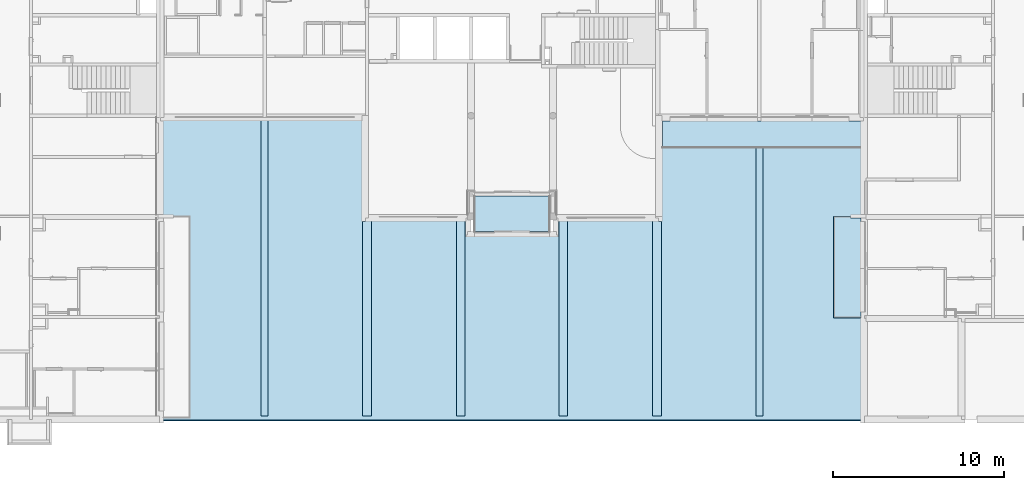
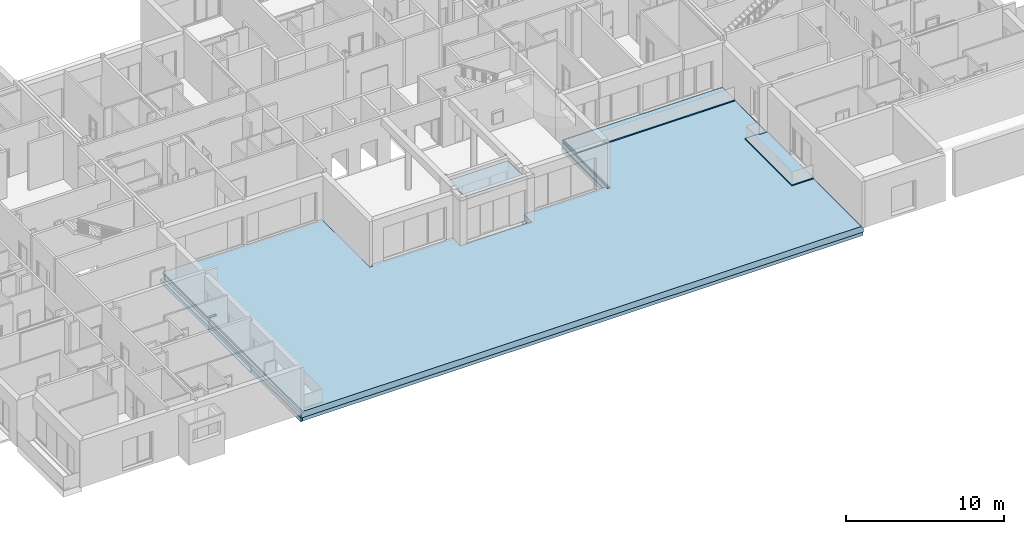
# One storey, part 2 of 46: 5 slabs.
"""IFC2X3 building model written with IfcOpenShell, lengths in millimetres."""

from ifc_helpers import new_model, entity, si_unit, converted_unit, derived_unit, money_unit, direction, frame, origin_with_axes, place, context, subcontext, project, spatial, faceted_brep, material, material_list, type_object, element, save


model = new_model("IFC2X3")

# Units and contexts
model_context = context("Model", 3, precision=0.01, world=origin_with_axes(), true_north=direction((0.34421633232, 0.938890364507)))
body_context = subcontext(model_context, "Body", "Model", "MODEL_VIEW")
ifc_project = project(units=[si_unit("LENGTHUNIT", "METRE", prefix="MILLI"), si_unit("AREAUNIT", "SQUARE_METRE"), si_unit("VOLUMEUNIT", "CUBIC_METRE"), converted_unit("PLANEANGLEUNIT", "DEGREE", entity("IfcPlaneAngleMeasure", 0.0174532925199), si_unit("PLANEANGLEUNIT", "RADIAN"), dimensions=[0, 0, 0, 0, 0, 0, 0]), si_unit("SOLIDANGLEUNIT", "STERADIAN"), money_unit("USD"), converted_unit("TIMEUNIT", "Year", entity("IfcTimeMeasure", 31556926.0), si_unit("TIMEUNIT", "SECOND"), dimensions=[0, 0, 1, 0, 0, 0, 0]), si_unit("MASSUNIT", "GRAM", prefix="KILO"), si_unit("THERMODYNAMICTEMPERATUREUNIT", "DEGREE_CELSIUS"), si_unit("LUMINOUSINTENSITYUNIT", "LUMEN"), si_unit("ENERGYUNIT", "JOULE", prefix="MEGA"), derived_unit("THERMALCONDUCTANCEUNIT", [(si_unit("POWERUNIT", "WATT"), 1), (si_unit("LENGTHUNIT", "METRE"), -1), (si_unit("THERMODYNAMICTEMPERATUREUNIT", "KELVIN"), -1)]), derived_unit("SPECIFICHEATCAPACITYUNIT", [(si_unit("ENERGYUNIT", "JOULE"), 1), (si_unit("MASSUNIT", "GRAM", prefix="KILO"), -1), (si_unit("THERMODYNAMICTEMPERATUREUNIT", "KELVIN"), -1)]), derived_unit("MASSDENSITYUNIT", [(si_unit("MASSUNIT", "GRAM", prefix="KILO"), 1), (si_unit("VOLUMEUNIT", "CUBIC_METRE"), -1)])], contexts=[model_context])

# Site, building, storey
site_placement = place(None, origin_with_axes())
site = spatial("IfcSite", under=ifc_project, at=site_placement, Name="USTRONIE MORSKIE", CompositionType="ELEMENT")
building_placement = place(site_placement, origin_with_axes())
building = spatial("IfcBuilding", under=site, at=building_placement, Name="Budynek", CompositionType="ELEMENT")
storey_placement = place(building_placement, origin_with_axes())
storey = spatial("IfcBuildingStorey", under=building, at=storey_placement, Name="PARTER", CompositionType="ELEMENT", Elevation=0.0)

# Slabs
ifc_material_1 = material(Name="Bloczki betonowe")
ifc_material_2 = material(Name="Piasek")
ifc_material_3 = material(Name="Membrana hydroizolacyjna")
ifc_material_4 = material(Name="Polistyren ekstrudowany")
ifc_material_5 = material(Name="Beton")
ifc_material_list_1 = material_list([ifc_material_1, ifc_material_2, ifc_material_3, ifc_material_4, ifc_material_3, ifc_material_5])
slab_type_1 = type_object("IfcSlabType", Name="611-DS Wykonczenie teren komunikacja  480", PredefinedType="FLOOR")
slab_1_placement = place(storey_placement, frame((367217.920919, 709001.199036, -100.0), z_axis=(0.0, 0.0, 1.0), x_axis=(1.0, 0.0, 0.0)))
element("IfcSlab", 1, at=slab_1_placement, inside=storey, type_object=slab_type_1, material=ifc_material_list_1, Name="P3.2", PredefinedType="FLOOR", context=body_context, shape_type="Brep", body=[
    faceted_brep([(150.0, 11900.0, -60.0), (150.0, 11900.0, 0.0), (750.0, 11900.0, 0.0), (750.0, 11900.0, -60.0), (150.0, 0.0, 0.0), (150.0, 0.0, -60.0), (41049.9997627, 0.0, 0.0), (41050.0138821, 11900.0, 0.0), (40449.9687211, 11900.0, 0.0), (40449.9687211, 12100.0, 0.0), (41050.0141194, 12100.0, 0.0), (41050.0208824, 17800.0004057, 0.0), (29400.0, 17800.0, 0.0), (29400.0, 11689.9999903, 0.0), (29200.0, 11689.9999903, 0.0), (29200.0, 11899.9935972, 0.0), (23200.0000014, 11900.0, 0.0), (23200.0000004, 11100.0, 0.0), (23200.0, 10900.0, 0.0), (23000.0, 10900.0, 0.0), (18200.0, 10900.0, 0.0), (18000.0, 10900.0, 0.0), (17999.9999994, 11100.0, 0.0), (17999.9999978, 11899.9934371, 0.0), (12000.0, 11899.9934371, 0.0), (12000.0, 11690.0, 0.0), (11800.0, 11690.0, 0.0), (11800.0, 17800.0, 0.0), (150.0, 17799.9999054, 0.0), (150.0, 12100.0, 0.0), (750.0, 12100.0, 0.0), (750.0, 12100.0, -60.0), (150.0, 12100.0, -60.0), (150.0, 17799.9999054, -60.0), (11800.0, 17800.0, -60.0), (11800.0, 11690.0, -60.0), (12000.0, 11690.0, -60.0), (12000.0, 11899.9934371, -60.0), (17999.9999978, 11899.9934371, -60.0), (17999.9999994, 11100.0, -60.0), (18000.0, 10900.0, -60.0), (18200.0, 10900.0, -60.0), (23000.0, 10900.0, -60.0), (23200.0, 10900.0, -60.0), (23200.0000004, 11100.0, -60.0), (23200.0000015, 11900.0, -60.0), (29200.0, 11899.9935972, -60.0), (29200.0, 11689.9999903, -60.0), (29400.0, 11689.9999903, -60.0), (29400.0, 17800.0, -60.0), (41050.0208824, 17800.0004057, -60.0), (41050.0141194, 12100.0, -60.0), (40449.9687211, 12100.0, -60.0), (40449.9687211, 11900.0, -60.0), (41050.0138821, 11900.0, -60.0), (41049.9997627, 0.0, -60.0)], [[[0, 1, 2, 3]], [[4, 1, 0, 5]], [[1, 4, 6, 7, 8, 9, 10, 11, 12, 13, 14, 15, 16, 17, 18, 19, 20, 21, 22, 23, 24, 25, 26, 27, 28, 29, 30, 2]], [[30, 31, 3, 2]], [[5, 0, 3, 31, 32, 33, 34, 35, 36, 37, 38, 39, 40, 41, 42, 43, 44, 45, 46, 47, 48, 49, 50, 51, 52, 53, 54, 55]], [[4, 5, 55, 6]], [[6, 55, 54, 7]], [[54, 53, 8, 7]], [[53, 52, 9, 8]], [[9, 52, 51, 10]], [[50, 11, 10, 51]], [[11, 50, 49, 12]], [[12, 49, 48, 13]], [[13, 48, 47, 14]], [[15, 14, 47, 46]], [[46, 45, 16, 15]], [[45, 44, 17, 16]], [[43, 18, 17, 44]], [[18, 43, 42, 19]], [[42, 41, 20, 19]], [[40, 21, 20, 41]], [[39, 22, 21, 40]], [[38, 23, 22, 39]], [[23, 38, 37, 24]], [[37, 36, 25, 24]], [[36, 35, 26, 25]], [[26, 35, 34, 27]], [[34, 33, 28, 27]], [[32, 29, 28, 33]], [[30, 29, 32, 31]]]),
    faceted_brep([(150.0, 11900.0, -125.0), (150.0, 11900.0, -60.0), (750.0, 11900.0, -60.0), (750.0, 11900.0, -125.0), (150.0, 0.0, -60.0), (150.0, 0.0, -125.0), (41049.9997627, 0.0, -60.0), (41050.0138821, 11900.0, -60.0), (40449.9687211, 11900.0, -60.0), (40449.9687211, 12100.0, -60.0), (41050.0141194, 12100.0, -60.0), (41050.0208824, 17800.0004057, -60.0), (29400.0, 17800.0, -60.0), (29400.0, 11689.9999903, -60.0), (29200.0, 11689.9999903, -60.0), (29200.0, 11899.9935972, -60.0), (23200.0000015, 11900.0, -60.0), (23200.0000004, 11100.0, -60.0), (23200.0, 10900.0, -60.0), (23000.0, 10900.0, -60.0), (18200.0, 10900.0, -60.0), (18000.0, 10900.0, -60.0), (17999.9999994, 11100.0, -60.0), (17999.9999978, 11899.9934371, -60.0), (12000.0, 11899.9934371, -60.0), (12000.0, 11690.0, -60.0), (11800.0, 11690.0, -60.0), (11800.0, 17800.0, -60.0), (150.0, 17799.9999054, -60.0), (150.0, 12100.0, -60.0), (750.0, 12100.0, -60.0), (750.0, 12100.0, -125.0), (150.0, 12100.0, -125.0), (150.0, 17799.9999054, -125.0), (11800.0, 17800.0, -125.0), (11800.0, 11690.0, -125.0), (12000.0, 11690.0, -125.0), (12000.0, 11899.9934371, -125.0), (17999.9999978, 11899.9934371, -125.0), (17999.9999993, 11100.0, -125.0), (18000.0, 10900.0, -125.0), (18200.0, 10900.0, -125.0), (23000.0, 10900.0, -125.0), (23200.0, 10900.0, -125.0), (23200.0000004, 11100.0, -125.0), (23200.0000015, 11900.0, -125.0), (29200.0, 11899.9935972, -125.0), (29200.0, 11689.9999903, -125.0), (29400.0, 11689.9999903, -125.0), (29400.0, 17800.0, -125.0), (41050.0208824, 17800.0004057, -125.0), (41050.0141194, 12100.0, -125.0), (40449.9687211, 12100.0, -125.0), (40449.9687211, 11900.0, -125.0), (41050.0138821, 11900.0, -125.0), (41049.9997627, 0.0, -125.0)], [[[0, 1, 2, 3]], [[4, 1, 0, 5]], [[1, 4, 6, 7, 8, 9, 10, 11, 12, 13, 14, 15, 16, 17, 18, 19, 20, 21, 22, 23, 24, 25, 26, 27, 28, 29, 30, 2]], [[30, 31, 3, 2]], [[5, 0, 3, 31, 32, 33, 34, 35, 36, 37, 38, 39, 40, 41, 42, 43, 44, 45, 46, 47, 48, 49, 50, 51, 52, 53, 54, 55]], [[4, 5, 55, 6]], [[6, 55, 54, 7]], [[54, 53, 8, 7]], [[53, 52, 9, 8]], [[9, 52, 51, 10]], [[50, 11, 10, 51]], [[11, 50, 49, 12]], [[12, 49, 48, 13]], [[13, 48, 47, 14]], [[15, 14, 47, 46]], [[46, 45, 16, 15]], [[45, 44, 17, 16]], [[43, 18, 17, 44]], [[18, 43, 42, 19]], [[42, 41, 20, 19]], [[40, 21, 20, 41]], [[39, 22, 21, 40]], [[38, 23, 22, 39]], [[23, 38, 37, 24]], [[37, 36, 25, 24]], [[36, 35, 26, 25]], [[26, 35, 34, 27]], [[34, 33, 28, 27]], [[32, 29, 28, 33]], [[30, 29, 32, 31]]]),
    faceted_brep([(750.0, 11900.0, -130.0), (150.0, 11900.0, -130.0), (150.0, 11900.0, -125.0), (750.0, 11900.0, -125.0), (41049.9997627, 0.0, -130.0), (150.0, 0.0, -130.0), (750.0, 12100.0, -130.0), (150.0, 12100.0, -130.0), (150.0, 17799.9999054, -130.0), (11800.0, 17800.0, -130.0), (11800.0, 11690.0, -130.0), (12000.0, 11690.0, -130.0), (12000.0, 11899.9934371, -130.0), (17999.9999978, 11899.9934371, -130.0), (17999.9999993, 11100.0, -130.0), (18000.0, 10900.0, -130.0), (18200.0, 10900.0, -130.0), (23000.0, 10900.0, -130.0), (23200.0, 10900.0, -130.0), (23200.0000004, 11100.0, -130.0), (23200.0000015, 11900.0, -130.0), (29200.0, 11899.9935972, -130.0), (29200.0, 11689.9999903, -130.0), (29400.0, 11689.9999903, -130.0), (29400.0, 17800.0, -130.0), (41050.0208824, 17800.0004057, -130.0), (41050.0141194, 12100.0, -130.0), (40449.9687211, 12100.0, -130.0), (40449.9687211, 11900.0, -130.0), (41050.0138821, 11900.0, -130.0), (150.0, 0.0, -125.0), (41049.9997627, 0.0, -125.0), (41050.0138821, 11900.0, -125.0), (40449.9687211, 11900.0, -125.0), (40449.9687211, 12100.0, -125.0), (41050.0141194, 12100.0, -125.0), (41050.0208824, 17800.0004057, -125.0), (29400.0, 17800.0, -125.0), (29400.0, 11689.9999903, -125.0), (29200.0, 11689.9999903, -125.0), (29200.0, 11899.9935972, -125.0), (23200.0000015, 11900.0, -125.0), (23200.0000004, 11100.0, -125.0), (23200.0, 10900.0, -125.0), (23000.0, 10900.0, -125.0), (18200.0, 10900.0, -125.0), (18000.0, 10900.0, -125.0), (17999.9999993, 11100.0, -125.0), (17999.9999978, 11899.9934371, -125.0), (12000.0, 11899.9934371, -125.0), (12000.0, 11690.0, -125.0), (11800.0, 11690.0, -125.0), (11800.0, 17800.0, -125.0), (150.0, 17799.9999054, -125.0), (150.0, 12100.0, -125.0), (750.0, 12100.0, -125.0)], [[[0, 1, 2, 3]], [[4, 5, 1, 0, 6, 7, 8, 9, 10, 11, 12, 13, 14, 15, 16, 17, 18, 19, 20, 21, 22, 23, 24, 25, 26, 27, 28, 29]], [[5, 30, 2, 1]], [[3, 2, 30, 31, 32, 33, 34, 35, 36, 37, 38, 39, 40, 41, 42, 43, 44, 45, 46, 47, 48, 49, 50, 51, 52, 53, 54, 55]], [[3, 55, 6, 0]], [[31, 30, 5, 4]], [[6, 55, 54, 7]], [[8, 7, 54, 53]], [[52, 9, 8, 53]], [[52, 51, 10, 9]], [[50, 11, 10, 51]], [[49, 12, 11, 50]], [[49, 48, 13, 12]], [[14, 13, 48, 47]], [[15, 14, 47, 46]], [[16, 15, 46, 45]], [[44, 17, 16, 45]], [[44, 43, 18, 17]], [[19, 18, 43, 42]], [[41, 20, 19, 42]], [[40, 21, 20, 41]], [[21, 40, 39, 22]], [[39, 38, 23, 22]], [[38, 37, 24, 23]], [[37, 36, 25, 24]], [[26, 25, 36, 35]], [[35, 34, 27, 26]], [[33, 28, 27, 34]], [[32, 29, 28, 33]], [[32, 31, 4, 29]]]),
    faceted_brep([(17999.999998, 11800.0000051, -280.0), (17999.999998, 11800.0, -129.999693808), (17999.9999993, 11100.0, -130.0), (17999.9999993, 11100.0, -280.0), (11899.9999933, 11800.0, -129.999693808), (11899.999996, 11800.0000027, -280.0), (29300.0, 11800.0, -129.999693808), (23200.0000014, 11800.0, -129.999693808), (23200.0000004, 11100.0, -130.0), (23200.0, 10900.0, -130.0), (23000.0, 10900.0, -130.0), (18200.0, 10900.0, -130.0), (18000.0, 10900.0, -130.0), (11900.0, 17800.0, -129.999693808), (200.0, 17800.0, -129.999958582), (200.0, 11750.0, -129.999958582), (0.0, 11750.0, -129.999958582), (0.0, 0.0, -130.0), (41200.0, 0.0, -130.0), (41200.0, 17800.0, -130.0), (41000.0, 17800.0, -129.999693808), (41000.0, 17700.0, -129.999693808), (35300.0, 17700.0, -129.999693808), (35300.0, 17650.0, -129.999693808), (34900.0, 17650.0, -129.999693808), (34900.0, 17700.0, -129.999693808), (29350.0, 17700.0, -129.999693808), (29350.0, 11899.9934371, -130.0), (29300.0, 11899.9934905, -129.999693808), (18000.0, 10900.0, -280.0), (23200.0000014, 11800.0000051, -280.0), (29299.9999973, 11800.0000027, -280.0), (29299.9999949, 11899.9934371, -280.0), (29350.0, 11899.9934371, -280.0), (29350.0, 17700.0000051, -280.0), (34899.9999987, 17700.0000027, -280.0), (34899.9999987, 17650.0, -280.0), (35299.9999973, 17650.0, -280.0), (35299.9999973, 17700.0000027, -280.0), (41000.0, 17700.0000027, -280.0), (41000.0, 17800.0, -280.0), (41200.0, 17800.0, -280.0), (41200.0, 0.0, -280.0), (0.0, 0.0, -280.0), (0.0, 11750.0, -280.0), (200.0, 11750.0, -280.0), (200.0, 17800.0, -280.0), (11900.0000009, 17800.0, -280.0), (18200.0, 10900.0, -280.0), (23000.0, 10900.0, -280.0), (23200.0, 10900.0, -280.0), (23200.0000005, 11100.0, -280.0)], [[[0, 1, 2, 3]], [[4, 1, 0, 5]], [[6, 7, 8, 9, 10, 11, 12, 2, 1, 4, 13, 14, 15, 16, 17, 18, 19, 20, 21, 22, 23, 24, 25, 26, 27, 28]], [[29, 3, 2, 12]], [[30, 31, 32, 33, 34, 35, 36, 37, 38, 39, 40, 41, 42, 43, 44, 45, 46, 47, 5, 0, 3, 29, 48, 49, 50, 51]], [[4, 5, 47, 13]], [[7, 6, 31, 30]], [[7, 30, 51, 8]], [[9, 8, 51, 50]], [[49, 10, 9, 50]], [[49, 48, 11, 10]], [[29, 12, 11, 48]], [[13, 47, 46, 14]], [[45, 15, 14, 46]], [[44, 16, 15, 45]], [[17, 16, 44, 43]], [[17, 43, 42, 18]], [[18, 42, 41, 19]], [[40, 20, 19, 41]], [[21, 20, 40, 39]], [[22, 21, 39, 38]], [[22, 38, 37, 23]], [[24, 23, 37, 36]], [[35, 25, 24, 36]], [[26, 25, 35, 34]], [[26, 34, 33, 27]], [[32, 28, 27, 33]], [[31, 6, 28, 32]]]),
    faceted_brep([(17999.999998, 11800.000005, -285.0), (17999.999998, 11800.0000051, -280.0), (17999.9999993, 11100.0, -280.0), (17999.9999993, 11100.0, -285.0), (11899.999996, 11800.0000027, -280.0), (11899.9999961, 11800.0000028, -285.0), (29299.9999973, 11800.0000027, -280.0), (23200.0000014, 11800.0000051, -280.0), (23200.0000005, 11100.0, -280.0), (23200.0, 10900.0, -280.0), (23000.0, 10900.0, -280.0), (18200.0, 10900.0, -280.0), (18000.0, 10900.0, -280.0), (11900.0000009, 17800.0, -280.0), (200.0, 17800.0, -280.0), (200.0, 11750.0, -279.999999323), (200.0, 6350.0, -279.999999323), (0.0, 6350.0, -279.999999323), (0.0, 0.0, -280.0), (41200.0, 0.0, -280.0), (41200.0, 17800.0, -280.0), (41000.0, 17800.0, -280.0), (41000.0, 17700.0000027, -280.0), (35299.9999973, 17700.0000027, -280.0), (35299.9999973, 17650.0, -280.0), (34899.9999987, 17650.0, -280.0), (34899.9999987, 17700.0000027, -280.0), (29350.0, 17700.0000051, -280.0), (29350.0, 11899.9934371, -280.0), (29299.9999949, 11899.9934371, -280.0), (18000.0, 10900.0, -285.0), (23200.0000014, 11800.000005, -285.0), (29299.9999972, 11800.0000028, -285.0), (29299.999995, 11899.9934371, -285.0), (29350.0, 11899.9934371, -285.0), (29350.0, 17700.000005, -285.0), (34899.9999986, 17700.0000028, -285.0), (34899.9999986, 17650.0, -285.0), (35299.9999972, 17650.0, -285.0), (35299.9999972, 17700.0000028, -285.0), (41000.0, 17700.0000028, -285.0), (41000.0, 17800.0, -285.0), (41200.0, 17800.0, -285.0), (41200.0, 0.0, -285.0), (0.0, 0.0, -285.0), (0.0, 6350.0, -285.0), (200.0, 6350.0, -285.0), (200.0, 11750.0, -285.0), (200.0, 17800.0, -285.0), (11900.0000009, 17800.0, -285.0), (18200.0, 10900.0, -285.0), (23000.0, 10900.0, -285.0), (23200.0, 10900.0, -285.0), (23200.0000005, 11100.0, -285.0)], [[[0, 1, 2, 3]], [[4, 1, 0, 5]], [[6, 7, 8, 9, 10, 11, 12, 2, 1, 4, 13, 14, 15, 16, 17, 18, 19, 20, 21, 22, 23, 24, 25, 26, 27, 28, 29]], [[30, 3, 2, 12]], [[31, 32, 33, 34, 35, 36, 37, 38, 39, 40, 41, 42, 43, 44, 45, 46, 47, 48, 49, 5, 0, 3, 30, 50, 51, 52, 53]], [[4, 5, 49, 13]], [[7, 6, 32, 31]], [[7, 31, 53, 8]], [[9, 8, 53, 52]], [[51, 10, 9, 52]], [[51, 50, 11, 10]], [[30, 12, 11, 50]], [[13, 49, 48, 14]], [[47, 46, 16, 15, 14, 48]], [[17, 16, 46, 45]], [[17, 45, 44, 18]], [[18, 44, 43, 19]], [[19, 43, 42, 20]], [[41, 21, 20, 42]], [[22, 21, 41, 40]], [[23, 22, 40, 39]], [[23, 39, 38, 24]], [[25, 24, 38, 37]], [[36, 26, 25, 37]], [[27, 26, 36, 35]], [[27, 35, 34, 28]], [[33, 29, 28, 34]], [[32, 6, 29, 33]]]),
    faceted_brep([(17999.9999981, 11800.0000039, -480.0), (17999.9999979, 11800.0000045, -379.999698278), (17999.999998, 11800.000005, -285.0), (17999.9999993, 11100.0, -285.0), (17999.9999993, 11100.0, -480.0), (11899.9999972, 11800.0000039, -480.0), (11899.9999978, 11800.0000045, -379.999698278), (11899.9999961, 11800.0000028, -285.0), (29299.9999972, 11800.0000028, -285.0), (23200.0000014, 11800.000005, -285.0), (23200.0000005, 11100.0, -285.0), (23200.0, 10900.0, -285.0), (23000.0, 10900.0, -285.0), (18200.0, 10900.0, -285.0), (18000.0, 10900.0, -285.0), (11900.0000009, 17800.0, -285.0), (200.0, 17800.0, -285.0), (200.0, 11750.0, -285.0), (200.0, 6350.0, -285.0), (0.0, 6350.0, -285.0), (0.0, 0.0, -285.0), (41200.0, 0.0, -285.0), (41200.0, 17800.0, -285.0), (41000.0, 17800.0, -285.0), (41000.0, 17700.0000028, -285.0), (35299.9999972, 17700.0000028, -285.0), (35299.9999972, 17650.0, -285.0), (34899.9999986, 17650.0, -285.0), (34899.9999986, 17700.0000028, -285.0), (29350.0, 17700.000005, -285.0), (29350.0, 11899.9934371, -285.0), (29299.999995, 11899.9934371, -285.0), (18000.0, 10900.0, -480.0), (23200.0000013, 11800.0000039, -480.0), (29299.9999961, 11800.0000039, -480.0), (29299.9999961, 11899.9934371, -480.0), (29350.0, 11899.9934371, -480.0), (29350.0, 17700.0000039, -480.0), (34899.9999981, 17700.0000039, -480.0), (34899.9999981, 17650.0, -480.0), (35299.9999961, 17650.0, -480.0), (35299.9999961, 17700.0000039, -480.0), (41000.0, 17700.0000039, -480.0), (41000.0, 17800.0, -480.0), (41200.0, 17800.0, -480.0), (41200.0, 0.0, -480.0), (0.0, 0.0, -480.0), (0.0, 6350.0, -480.0), (200.0, 6350.0, -480.0), (200.0, 11750.0, -480.0), (200.0, 17800.0, -480.0), (11899.9999984, 17800.0, -480.0), (18200.0, 10900.0, -480.0), (23000.0, 10900.0, -480.0), (23200.0, 10900.0, -480.0), (23200.0000005, 11100.0, -480.0), (17350.0, 300.019784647, -480.0), (17850.0, 300.019784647, -480.0), (17850.0, 11750.0, -480.0), (17350.0, 11750.0, -480.0), (23350.0, 300.019784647, -480.0), (23850.0, 300.019784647, -480.0), (23850.0, 11750.0, -480.0), (23350.0, 11750.0, -480.0), (11850.0, 300.019784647, -480.0), (12350.0, 300.019784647, -480.0), (12350.0, 11750.0, -480.0), (11850.0, 11750.0, -480.0), (28850.0, 300.0, -480.0), (29350.0, 300.0, -480.0), (29350.0, 11750.0, -480.0), (28850.0, 11750.0, -480.0), (11899.9999978, 17800.0, -379.999698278), (29299.9999955, 11800.0000045, -379.999698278), (23200.0000005, 11800.0000045, -379.999698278), (41000.0, 17700.0000045, -379.999698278), (35299.9999955, 17700.0000045, -379.999698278), (35299.9999955, 17650.0, -379.999698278), (34899.9999978, 17650.0, -379.999698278), (34899.9999978, 17700.0000045, -379.999698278), (29350.0, 17700.0000045, -379.999698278), (29299.9999955, 11899.9934371, -379.999698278), (17350.0, 300.019784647, -429.999693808), (17850.0, 300.019784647, -429.999693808), (17850.0, 11750.0, -429.999693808), (17350.0, 11750.0, -429.999693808), (23350.0, 300.019784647, -429.999693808), (23850.0, 300.019784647, -429.999693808), (23850.0, 11750.0, -429.999693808), (23350.0, 11750.0, -429.999693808), (11850.0, 300.019784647, -429.999693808), (12350.0, 300.019784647, -429.999693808), (12350.0, 11750.0, -429.999693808), (11850.0, 11750.0, -429.999693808), (28850.0, 300.0, -429.999693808), (29350.0, 300.0, -429.999693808), (29350.0, 11750.0, -429.999693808), (28850.0, 11750.0, -429.999693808)], [[[0, 1, 2, 3, 4]], [[1, 0, 5, 6]], [[7, 2, 1, 6]], [[8, 9, 10, 11, 12, 13, 14, 3, 2, 7, 15, 16, 17, 18, 19, 20, 21, 22, 23, 24, 25, 26, 27, 28, 29, 30, 31]], [[32, 4, 3, 14]], [[33, 34, 35, 36, 37, 38, 39, 40, 41, 42, 43, 44, 45, 46, 47, 48, 49, 50, 51, 5, 0, 4, 32, 52, 53, 54, 55], [56, 57, 58, 59], [60, 61, 62, 63], [64, 65, 66, 67], [68, 69, 70, 71]], [[6, 5, 51, 72]], [[7, 6, 72, 15]], [[9, 8, 73, 74]], [[74, 33, 55, 10, 9]], [[11, 10, 55, 54]], [[53, 12, 11, 54]], [[53, 52, 13, 12]], [[32, 14, 13, 52]], [[72, 51, 50, 16, 15]], [[49, 48, 18, 17, 16, 50]], [[19, 18, 48, 47]], [[19, 47, 46, 20]], [[21, 20, 46, 45]], [[22, 21, 45, 44]], [[43, 23, 22, 44]], [[24, 23, 43, 42, 75]], [[25, 24, 75, 76]], [[25, 76, 77, 26]], [[27, 26, 77, 40, 39, 78]], [[79, 28, 27, 78]], [[29, 28, 79, 80]], [[80, 37, 36, 30, 29]], [[35, 81, 31, 30, 36]], [[73, 8, 31, 81]], [[73, 34, 33, 74]], [[34, 73, 81, 35]], [[79, 38, 37, 80]], [[38, 79, 78, 39]], [[76, 41, 40, 77]], [[42, 41, 76, 75]], [[57, 56, 82, 83]], [[58, 57, 83, 84]], [[59, 58, 84, 85]], [[56, 59, 85, 82]], [[61, 60, 86, 87]], [[62, 61, 87, 88]], [[63, 62, 88, 89]], [[60, 63, 89, 86]], [[65, 64, 90, 91]], [[66, 65, 91, 92]], [[67, 66, 92, 93]], [[64, 67, 93, 90]], [[69, 68, 94, 95]], [[70, 69, 95, 96]], [[71, 70, 96, 97]], [[68, 71, 97, 94]], [[82, 85, 84, 83]], [[86, 89, 88, 87]], [[92, 91, 90, 93]], [[96, 95, 94, 97]]]),
])
ifc_material_6 = material(Name="Kostka brukowa")
slab_type_2 = type_object("IfcSlabType", Name="Kostka brukowa 80", PredefinedType="FLOOR")
slab_2_placement = place(storey_placement, frame((408267.920919, 715051.199036, 0.0), z_axis=(0.0, 0.0, 1.0), x_axis=(1.0, 0.0, 0.0)))
element("IfcSlab", 2, at=slab_2_placement, inside=storey, type_object=slab_type_2, material=ifc_material_6, Name="P3", PredefinedType="FLOOR", context=body_context, shape_type="Brep", body=[
    faceted_brep([(0.0, 0.0, -80.0), (0.0, 5850.0, -80.0), (0.0, 5850.0, 0.0), (0.0, 0.0, 0.0), (-600.031278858, 5950.0, -80.0), (-600.031278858, 5850.0, -80.0), (-1600.0, 0.0, -80.0), (-1600.0, 5950.0, -80.0), (-600.031278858, 5850.0, 0.0), (-600.031278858, 5950.0, 0.0), (-1600.0, 5950.0, 0.0), (-1600.0, 0.0, 0.0)], [[[0, 1, 2, 3]], [[4, 5, 1, 0, 6, 7]], [[5, 8, 2, 1]], [[2, 8, 9, 10, 11, 3]], [[3, 11, 6, 0]], [[5, 4, 9, 8]], [[11, 10, 7, 6]], [[10, 9, 4, 7]]]),
])
slab_3_placement = place(storey_placement, frame((396637.96229, 726601.199036, 0.0), z_axis=(0.0, 0.0, 1.0), x_axis=(1.0, 0.0, 0.0)))
element("IfcSlab", 3, at=slab_3_placement, inside=storey, type_object=slab_type_2, material=ifc_material_6, Name="P3", PredefinedType="FLOOR", context=body_context, shape_type="Brep", body=[
    faceted_brep([(-0.0374374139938, -1600.00067759, 0.0), (0.0, 0.0, 0.0), (0.0, 0.0, -80.0), (-0.0374374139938, -1600.00067759, -80.0), (11629.9771783, -1600.00067759, 0.0), (11629.9845996, 0.0, 0.0), (11629.9845996, 0.0, -80.0), (11629.9771783, -1600.00067759, -80.0)], [[[0, 1, 2, 3]], [[4, 5, 1, 0]], [[1, 5, 6, 2]], [[7, 3, 2, 6]], [[4, 0, 3, 7]], [[5, 4, 7, 6]]]),
])
ifc_material_7 = material(Name="Laminat")
slab_type_3 = type_object("IfcSlabType", Name="Laminat 25", PredefinedType="FLOOR")
slab_4_placement = place(storey_placement, frame((385637.920919, 720101.199036, 3400.0), z_axis=(0.0, 0.0, 1.0), x_axis=(1.0, 0.0, 0.0)))
element("IfcSlab", 4, at=slab_4_placement, inside=storey, type_object=slab_type_3, material=ifc_material_7, Name="P6", PredefinedType="FLOOR", context=body_context, shape_type="Brep", body=[
    faceted_brep([(4360.0, 0.0, -25.0), (4360.0, 0.0, 0.0), (0.0, 0.0, 0.0), (0.0, 0.0, -25.0), (4360.0, 2080.0, -25.0), (4360.0, 2080.0, 0.0), (0.0, 2080.0, 0.0), (0.0, 2080.0, -25.0)], [[[0, 1, 2, 3]], [[4, 5, 1, 0]], [[1, 5, 6, 2]], [[3, 2, 6, 7]], [[7, 4, 0, 3]], [[7, 6, 5, 4]]]),
])
ifc_material_8 = material(Name="Beton konstrukcyjny 01")
ifc_material_9 = material(Name="Termoizolacja WEŁNA SKALNA")
ifc_material_list_2 = material_list([ifc_material_8, ifc_material_9])
slab_type_4 = type_object("IfcSlabType", Name="501-P3 STROP PARTER 350", PredefinedType="FLOOR")
slab_5_placement = place(storey_placement, frame((379217.920919, 726801.198942, -580.0), z_axis=(0.0, 0.0, 1.0), x_axis=(1.0, 0.0, 0.0)))
element("IfcSlab", 5, at=slab_5_placement, inside=storey, type_object=slab_type_4, material=ifc_material_list_2, Name="P3.1", PredefinedType="FLOOR", context=body_context, shape_type="Brep", body=[
    faceted_brep([(6199.95803773, -6699.74816549, -300.0), (6199.99473628, -5999.99990333, -300.0), (6199.99473628, -5999.99990154, 0.0), (6199.95803773, -6699.74816549, 0.0), (10999.9632882, -6699.99990349, -300.0), (11000.0, -5999.99990333, -300.0), (17299.9999979, -5999.99990333, -300.0), (17299.9999979, -99.999903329, -300.0), (22899.999999, -99.999903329, -300.0), (22899.999999, -149.999905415, -300.0), (22900.0000035, -17499.9999054, -300.0), (23299.9999977, -17499.9999054, -300.0), (23299.9999979, -149.999905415, -300.0), (23299.9999979, -99.999903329, -300.0), (29000.0, -99.999903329, -300.0), (29000.0, 9.4584947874e-05, -300.0), (29200.0, 9.4584947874e-05, -300.0), (29200.0, -17749.9801163, -300.0), (-11900.0, -17749.980119, -300.0), (-11900.0, -17799.9999054, -300.0), (-12000.0, -17799.9999054, -300.0), (-12000.0, -11449.9999054, -300.000000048), (-11800.0, -11449.9999054, -300.000000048), (-11800.0, -6049.99990542, -300.000000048), (-12000.0, -6049.99990542, -300.000000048), (-12000.0, 0.0, -300.0), (-6099.99999652, 0.0, -300.0), (-6099.99999652, -17499.9801208, -300.0), (-5700.00000232, -17499.9801208, -300.0), (-5700.00000397, 0.0, -300.0), (-99.999999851, 0.0, -300.0), (-100.000004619, -5999.99990333, -300.0), (5350.0, -6049.99990542, -300.0), (5350.0, -17499.9801208, -300.0), (5850.0, -17499.9801208, -300.0), (5850.0, -6049.99990542, -300.0), (11350.0, -6049.99990542, -300.0), (11350.0, -17499.9801208, -300.0), (11850.0, -17499.9801208, -300.0), (11850.0, -6049.99990542, -300.0), (-150.0, -6049.99990542, -300.0), (-150.0, -17499.9801208, -300.0), (350.0, -17499.9801208, -300.0), (350.0, -6049.99990542, -300.0), (16850.0, -6049.99990542, -300.0), (16850.0, -17499.9999054, -300.0), (17350.0, -17499.9999054, -300.0), (17350.0, -6049.99990542, -300.0), (-100.000002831, -5999.99990154, 0.0), (17299.9999961, -99.9999015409, 0.0), (17299.9999961, -5999.99990154, 0.0), (11000.0, -5999.99990154, 0.0), (10999.9632882, -6699.99990349, 0.0), (-100.000001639, 0.0, 0.0), (-5700.0, 0.0, 0.000306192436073), (-5700.0, -17499.9801208, 0.000306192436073), (-6100.0, -17499.9801208, 0.000306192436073), (-6100.0, 0.0, 0.000306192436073), (-12000.0, 0.0, 0.0), (-12000.0, -6049.99990542, 0.0), (-11800.0, -6049.99990542, 0.0), (-11800.0, -11449.9999054, 0.0), (-12000.0, -11449.9999054, 0.0), (-12000.0, -17799.9999054, 0.0), (-11900.0, -17799.9999054, 0.0), (-11900.0, -17749.980119, 0.0), (29200.0, -17749.9801208, 0.0), (29200.0, 9.4584947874e-05, 0.0), (29000.0, 9.4584947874e-05, 0.0), (29000.0, -99.9999015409, 0.0), (23299.9999961, -99.9999015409, 0.000204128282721), (23299.9999961, -149.999905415, 0.000306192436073), (23300.0, -17499.9999054, 0.000306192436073), (22900.0, -17499.9999054, 0.000306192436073), (22899.9999981, -149.999905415, 0.000306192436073), (22899.9999981, -99.9999015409, 0.000204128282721), (5850.0, -17499.9801208, 0.0), (5350.0, -17499.9801208, 0.0), (5350.0, -6049.99990542, 0.0), (5850.0, -6049.99990542, 0.0), (11850.0, -17499.9801208, 0.0), (11350.0, -17499.9801208, 0.0), (11350.0, -6049.99990542, 0.0), (11850.0, -6049.99990542, 0.0), (350.0, -17499.9801208, 0.0), (-150.0, -17499.9801208, 0.0), (-150.0, -6049.99990542, 0.0), (350.0, -6049.99990542, 0.0), (17350.0, -17499.9999054, 0.0), (16850.0, -17499.9999054, 0.0), (16850.0, -6049.99990542, 0.0), (17350.0, -6049.99990542, 0.0), (22899.9999987, -149.999905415, -199.999695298), (22900.0000045, -17499.9999054, -199.999695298), (23299.999997, -17499.9999054, -199.999695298), (23299.9999973, -149.999905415, -199.999695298), (-6099.99999553, 0.0, -199.999695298), (-6099.99999553, -17499.9801208, -199.999695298), (-5700.00000298, -17499.9801208, -199.999695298), (-5700.00000298, 0.0, -199.999695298)], [[[0, 1, 2, 3]], [[4, 5, 6, 7, 8, 9, 10, 11, 12, 13, 14, 15, 16, 17, 18, 19, 20, 21, 22, 23, 24, 25, 26, 27, 28, 29, 30, 31, 1, 0], [32, 33, 34, 35], [36, 37, 38, 39], [40, 41, 42, 43], [44, 45, 46, 47]], [[31, 48, 2, 1]], [[49, 50, 51, 52, 3, 2, 48, 53, 54, 55, 56, 57, 58, 59, 60, 61, 62, 63, 64, 65, 66, 67, 68, 69, 70, 71, 72, 73, 74, 75], [76, 77, 78, 79], [80, 81, 82, 83], [84, 85, 86, 87], [88, 89, 90, 91]], [[3, 52, 4, 0]], [[52, 51, 5, 4]], [[5, 51, 50, 6]], [[7, 6, 50, 49]], [[7, 49, 75, 8]], [[9, 8, 75, 74, 92]], [[10, 9, 92, 93]], [[93, 73, 72, 94, 11, 10]], [[94, 95, 12, 11]], [[71, 70, 13, 12, 95]], [[13, 70, 69, 14]], [[14, 69, 68, 15]], [[16, 15, 68, 67]], [[16, 67, 66, 17]], [[65, 18, 17, 66]], [[19, 18, 65, 64]], [[63, 20, 19, 64]], [[63, 62, 21, 20]], [[21, 62, 61, 22]], [[22, 61, 60, 23]], [[23, 60, 59, 24]], [[25, 24, 59, 58]], [[57, 96, 26, 25, 58]], [[27, 26, 96, 97]], [[97, 56, 55, 98, 28, 27]], [[98, 99, 29, 28]], [[30, 29, 99, 54, 53]], [[53, 48, 31, 30]], [[32, 78, 77, 33]], [[33, 77, 76, 34]], [[34, 76, 79, 35]], [[35, 79, 78, 32]], [[36, 82, 81, 37]], [[37, 81, 80, 38]], [[38, 80, 83, 39]], [[39, 83, 82, 36]], [[40, 86, 85, 41]], [[41, 85, 84, 42]], [[42, 84, 87, 43]], [[43, 87, 86, 40]], [[44, 90, 89, 45]], [[45, 89, 88, 46]], [[46, 88, 91, 47]], [[47, 91, 90, 44]], [[98, 55, 54, 99]], [[97, 96, 57, 56]], [[72, 71, 95, 94]], [[93, 92, 74, 73]]]),
    faceted_brep([(22850.0000015, -17499.9801213, -350.0), (17350.0, -17499.980121, -350.0), (17350.0, -6049.99990542, -350.0), (17349.9999933, -149.99989871, -350.0), (22850.0, -149.999905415, -350.0), (22850.0000015, -17499.9801211, -300.0), (17350.0, -17499.9801209, -300.0), (17350.0, -6049.99990542, -300.0), (17349.9999933, -149.99989871, -300.0), (22850.0, -149.999905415, -300.0)], [[[0, 1, 2, 3, 4]], [[5, 6, 1, 0]], [[1, 6, 7, 2]], [[7, 8, 3, 2]], [[3, 8, 9, 4]], [[0, 4, 9, 5]], [[8, 7, 6, 5, 9]]]),
    faceted_brep([(5350.0, -6049.99989871, -350.0), (5350.0, -6049.99989871, -300.0), (5350.0, -17499.9801208, -300.0), (5350.0, -17499.9801208, -350.0), (350.0, -6049.99989871, -300.0), (350.0, -6049.99989871, -350.0), (350.0, -17499.9801208, -300.0), (350.0, -17499.9801208, -350.0)], [[[0, 1, 2, 3]], [[4, 1, 0, 5]], [[1, 4, 6, 2]], [[6, 7, 3, 2]], [[5, 0, 3, 7]], [[4, 5, 7, 6]]]),
    faceted_brep([(-6149.99999851, -17499.9801208, -300.0), (-6149.99999851, 9.45848341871e-05, -300.0), (-11800.0, 0.0, -300.0), (-11800.0, -6049.99990542, -300.0), (-12000.0, -6049.99990542, -300.0), (-12000.0, -11449.9999054, -300.0), (-11800.0, -11449.9999054, -300.0), (-11800.0, -17499.9801223, -300.0), (-6149.99999851, 9.45848341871e-05, -350.0), (-6149.99999851, -17499.9801208, -350.0), (-11800.0, 0.0, -350.0), (-11800.0, -6049.99990542, -350.0), (-12000.0, -6049.99990542, -350.0), (-12000.0, -11449.9999054, -350.0), (-11800.0, -11449.9999054, -350.0), (-11800.0, -17499.9801223, -350.0)], [[[0, 1, 2, 3, 4, 5, 6, 7]], [[8, 1, 0, 9]], [[1, 8, 10, 2]], [[11, 3, 2, 10]], [[12, 4, 3, 11]], [[5, 4, 12, 13]], [[14, 6, 5, 13]], [[15, 7, 6, 14]], [[9, 0, 7, 15]], [[8, 9, 15, 14, 13, 12, 11, 10]]]),
    faceted_brep([(-5650.0, 9.45848341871e-05, -350.0), (-5650.0, 9.45848341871e-05, -300.0), (-150.0, 9.45848341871e-05, -300.0), (-150.0, 9.45848341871e-05, -350.0), (-5650.0, -17499.9801208, -300.0), (-5650.0, -17499.9801208, -350.0), (-150.0, -17499.9801208, -300.0), (-150.0, -6049.99990542, -300.0), (-150.0, -6049.99990542, -350.0), (-150.0, -17499.9801208, -350.0)], [[[0, 1, 2, 3]], [[4, 1, 0, 5]], [[1, 4, 6, 7, 2]], [[3, 2, 7, 8]], [[5, 0, 3, 8, 9]], [[4, 5, 9, 6]], [[7, 6, 9, 8]]]),
    faceted_brep([(29000.0, -149.99989871, -350.0), (29000.0, -149.99989871, -300.0), (29000.0, -5699.99990542, -300.0), (29000.0, -5699.99990542, -350.0), (23349.9999933, -149.999905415, -300.0), (23349.9999933, -149.999905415, -350.0), (23350.0, -17499.9801211, -300.0), (29000.0, -17499.9801208, -300.0), (29000.0, -5899.99990542, -300.0), (27100.0, -5899.99990542, -300.0), (27100.0, -5699.99990542, -300.0), (27100.0, -5699.99990542, -350.0), (27100.0, -5899.99990542, -350.0), (29000.0, -5899.99990542, -350.0), (29000.0, -17499.9801208, -350.0), (23350.0, -17499.9801212, -350.0)], [[[0, 1, 2, 3]], [[4, 1, 0, 5]], [[1, 4, 6, 7, 8, 9, 10, 2]], [[11, 3, 2, 10]], [[5, 0, 3, 11, 12, 13, 14, 15]], [[4, 5, 15, 6]], [[6, 15, 14, 7]], [[14, 13, 8, 7]], [[12, 9, 8, 13]], [[11, 10, 9, 12]]]),
    faceted_brep([(6199.99211401, -6049.99989871, -350.0), (6199.99211401, -6049.99989871, -300.0), (6199.95803773, -6699.74816549, -300.0), (6199.95803773, -6699.74816549, -350.0), (5850.0, -6049.99989871, -300.0), (5850.0, -6049.99989871, -350.0), (11350.0, -6049.99989871, -300.0), (10999.9973777, -6049.99989871, -300.0), (10999.9632882, -6699.99990349, -300.0), (5850.0, -17499.9801208, -300.0), (11350.0, -17499.9801208, -300.0), (10999.9632882, -6699.99990349, -350.0), (10999.9973777, -6049.99989871, -350.0), (11350.0, -6049.99989871, -350.0), (11350.0, -17499.9801208, -350.0), (5850.0, -17499.9801208, -350.0)], [[[0, 1, 2, 3]], [[4, 1, 0, 5]], [[6, 7, 8, 2, 1, 4, 9, 10]], [[2, 8, 11, 3]], [[12, 13, 14, 15, 5, 0, 3, 11]], [[4, 5, 15, 9]], [[7, 6, 13, 12]], [[7, 12, 11, 8]], [[14, 10, 9, 15]], [[13, 6, 10, 14]]]),
    faceted_brep([(16850.0, -6049.99989871, -350.0), (16850.0, -6049.99989871, -300.0), (16850.0, -17499.9801209, -300.0), (16850.0, -17499.980121, -350.0), (11850.0, -6049.99989871, -300.0), (11850.0, -6049.99989871, -350.0), (11850.0, -17499.9801208, -300.0), (11850.0, -17499.9801208, -350.0)], [[[0, 1, 2, 3]], [[4, 1, 0, 5]], [[1, 4, 6, 2]], [[3, 2, 6, 7]], [[5, 0, 3, 7]], [[4, 5, 7, 6]]]),
])

save(model, "model.ifc")
